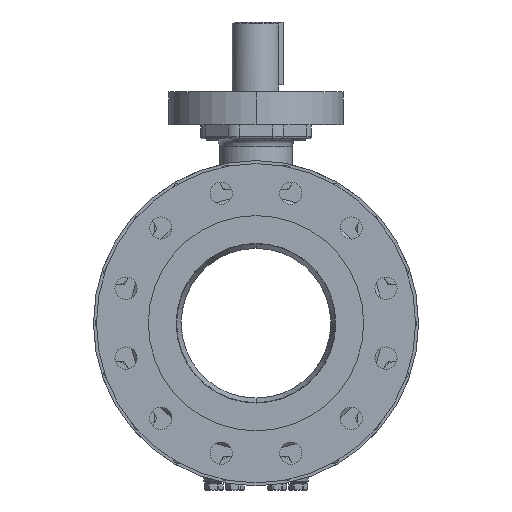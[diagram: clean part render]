
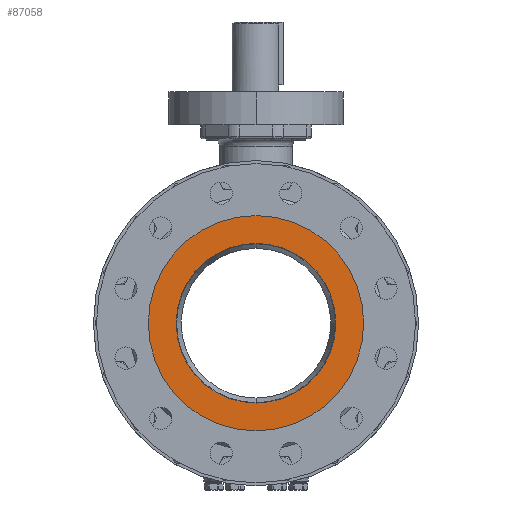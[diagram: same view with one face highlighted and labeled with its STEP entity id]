
A CAD part, left-side view. The second image highlights one B-rep face of the part: STEP entity #87058.
In plain terms, the highlighted planar face has unit normal (-1, 0, 0).
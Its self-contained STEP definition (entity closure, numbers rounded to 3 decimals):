
#9393=CARTESIAN_POINT('',(-201.5,0.,0.));
#9394=DIRECTION('',(1.,0.,0.));
#9395=DIRECTION('',(0.,0.,-1.));
#9396=AXIS2_PLACEMENT_3D('',#9393,#9394,#9395);
#9398=CARTESIAN_POINT('',(-201.5,0.,0.));
#9399=DIRECTION('',(-1.,0.,0.));
#9400=DIRECTION('',(0.,0.,-1.));
#9401=AXIS2_PLACEMENT_3D('',#9398,#9399,#9400);
#9403=CARTESIAN_POINT('',(-201.5,0.,0.));
#9404=DIRECTION('',(-1.,0.,0.));
#9405=DIRECTION('',(0.,0.,-1.));
#9406=AXIS2_PLACEMENT_3D('',#9403,#9404,#9405);
#9416=CARTESIAN_POINT('',(-201.5,0.,0.));
#9417=DIRECTION('',(1.,0.,0.));
#9418=DIRECTION('',(0.,0.,-1.));
#9419=AXIS2_PLACEMENT_3D('',#9416,#9417,#9418);
#58377=CARTESIAN_POINT('',(-201.5,0.,-80.));
#58379=VERTEX_POINT('',#58377);
#58385=CARTESIAN_POINT('',(-201.5,0.,80.));
#58387=VERTEX_POINT('',#58385);
#58504=CARTESIAN_POINT('',(-201.5,0.,-107.95));
#58506=VERTEX_POINT('',#58504);
#58508=CARTESIAN_POINT('',(-201.5,0.,107.95));
#58510=VERTEX_POINT('',#58508);
#87043=CARTESIAN_POINT('',(-201.5,0.,0.));
#87044=DIRECTION('',(-1.,0.,0.));
#87045=DIRECTION('',(0.,0.,1.));
#87046=AXIS2_PLACEMENT_3D('',#87043,#87044,#87045);
#87047=PLANE('',#87046);
#87049=ORIENTED_EDGE('',*,*,#87048,.F.);
#87051=ORIENTED_EDGE('',*,*,#87050,.T.);
#87052=EDGE_LOOP('',(#87049,#87051));
#87053=FACE_OUTER_BOUND('',#87052,.F.);
#87054=ORIENTED_EDGE('',*,*,#87036,.F.);
#87055=ORIENTED_EDGE('',*,*,#87025,.T.);
#87056=EDGE_LOOP('',(#87054,#87055));
#87057=FACE_BOUND('',#87056,.F.);
#87058=ADVANCED_FACE('',(#87053,#87057),#87047,.T.);
#9397=CIRCLE('',#9396,80.);
#9402=CIRCLE('',#9401,80.);
#9407=CIRCLE('',#9406,107.95);
#9420=CIRCLE('',#9419,107.95);
#87025=EDGE_CURVE('',#58379,#58387,#9402,.T.);
#87036=EDGE_CURVE('',#58379,#58387,#9397,.T.);
#87048=EDGE_CURVE('',#58506,#58510,#9407,.T.);
#87050=EDGE_CURVE('',#58506,#58510,#9420,.T.);
